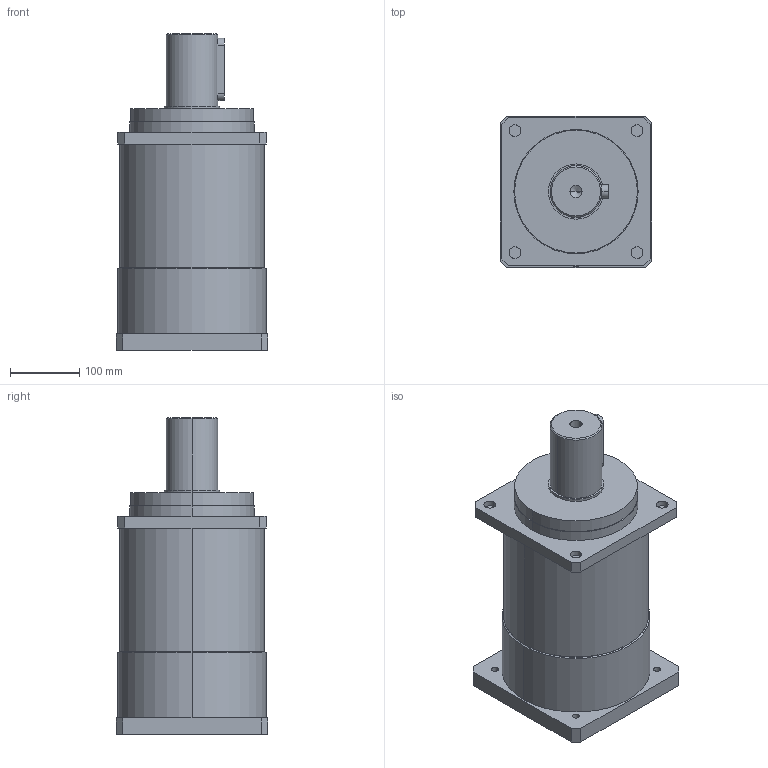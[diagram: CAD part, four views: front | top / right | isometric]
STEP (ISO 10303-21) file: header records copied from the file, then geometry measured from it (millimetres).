
FILE_DESCRIPTION (( 'STEP AP214' ), '1' );
FILE_NAME ('VRS210-L2.STEP', '2019-08-31T07:54:21', ( '微软用户' ), ( '微软中国' ), 'SwSTEP 2.0', 'SolidWorks 2014', '' );
FILE_SCHEMA (( 'AUTOMOTIVE_DESIGN' ));
Length unit declared in the file: millimetre
Products named in the file (2): VRS210-L2
Bounding box: 220 x 220 x 459 mm (x, y, z)
Volume: 12386271 mm3; surface area: 414303.3 mm2
Topology: 1 solids, 1 shells, 702 faces, 1999 edges, 1330 vertices
Faces by surface type: plane 599, bspline 60, cylinder 37, cone 6
Entity records: 29754 total; most frequent: CARTESIAN_POINT 4911, ORIENTED_EDGE 3994, DIRECTION 3238, EDGE_CURVE 1997, LINE 1796, VECTOR 1796, VERTEX_POINT 1330, EDGE_LOOP 743
